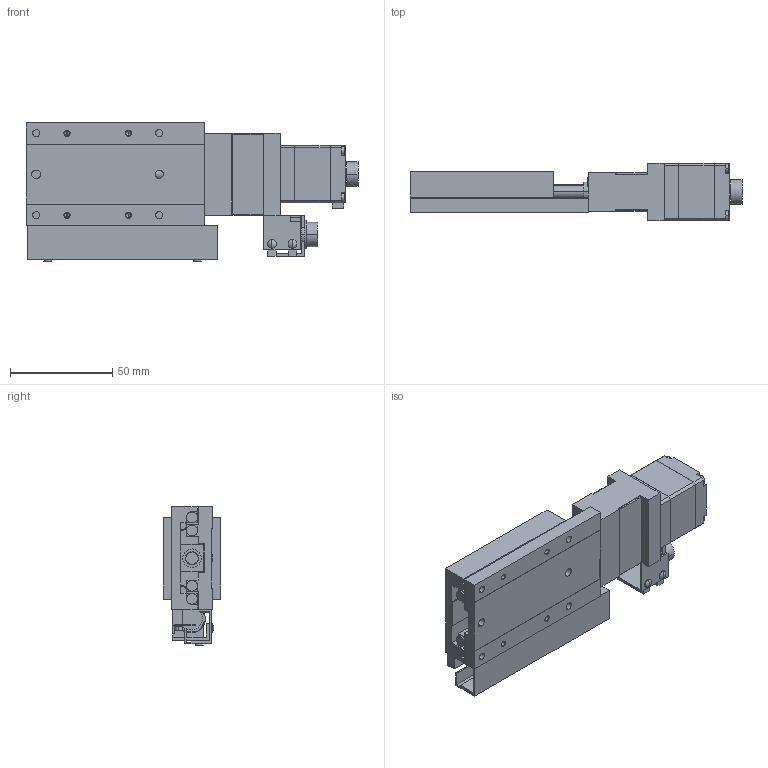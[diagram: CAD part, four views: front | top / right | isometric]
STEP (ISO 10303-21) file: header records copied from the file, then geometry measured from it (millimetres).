
FILE_DESCRIPTION(('STEP AP203'),'1');
FILE_NAME('C:/3D-Trans/3D_PG530M-R□-T+240116.step','2024-02-26T08:49:03',(' '),(' '),'Spatial InterOp 3D',' ',' ');
FILE_SCHEMA(('CONFIG_CONTROL_DESIGN'));
Length unit declared in the file: millimetre
Products named in the file (6): 1; 2; 3; 4; 5; 6
Bounding box: 162 x 28 x 67.4 mm (x, y, z)
Volume: 115846.7 mm3; surface area: 56235 mm2
Topology: 6 solids, 6 shells, 634 faces, 1621 edges, 1019 vertices
Faces by surface type: plane 367, cylinder 187, cone 76, sphere 4
Entity records: 19295 total; most frequent: DIRECTION 3387, CARTESIAN_POINT 3288, ORIENTED_EDGE 3194, EDGE_CURVE 1597, AXIS2_PLACEMENT_3D 1158, LINE 1071, VECTOR 1071, VERTEX_POINT 1019
